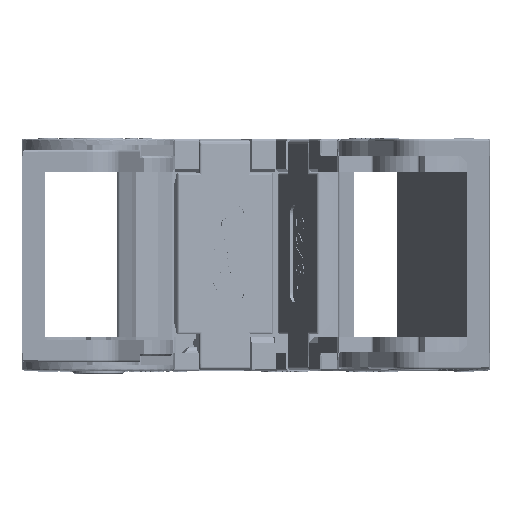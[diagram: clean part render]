
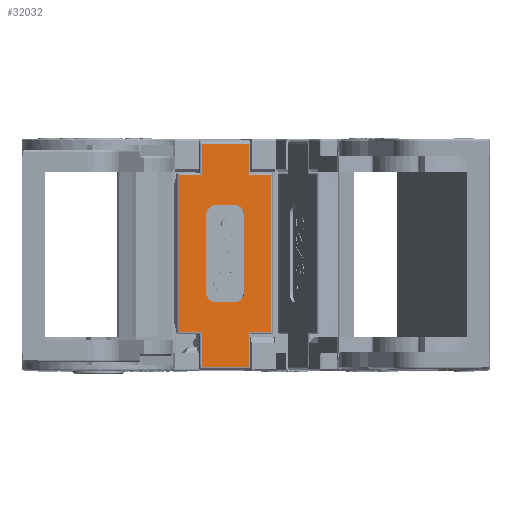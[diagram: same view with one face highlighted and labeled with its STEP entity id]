
A CAD part, left-side view. The second image highlights one B-rep face of the part: STEP entity #32032.
In plain terms, the highlighted planar face has unit normal (-0.978, -0.209, 0).
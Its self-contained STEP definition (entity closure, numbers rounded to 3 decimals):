
#5368=FACE_BOUND('',#62157,.T.);
#5369=FACE_BOUND('',#62158,.T.);
#9572=PLANE('',#282745);
#32032=ADVANCED_FACE('',(#5368,#5369),#9572,.T.);
#62157=EDGE_LOOP('',(#155465,#155466,#155467,#155468,#155469,#155470,#155471,
#155472));
#62158=EDGE_LOOP('',(#155473,#155474,#155475,#155476,#155477,#155478,#155479,
#155480,#155481,#155482,#155483,#155484));
#82106=LINE('',#469788,#107261);
#82107=LINE('',#469793,#107262);
#82108=LINE('',#469797,#107263);
#82109=LINE('',#469801,#107264);
#82110=LINE('',#469804,#107265);
#82111=LINE('',#469807,#107266);
#82112=LINE('',#469809,#107267);
#82113=LINE('',#469811,#107268);
#82114=LINE('',#469813,#107269);
#82115=LINE('',#469815,#107270);
#82116=LINE('',#469817,#107271);
#82117=LINE('',#469819,#107272);
#82118=LINE('',#469821,#107273);
#82119=LINE('',#469823,#107274);
#82120=LINE('',#469825,#107275);
#82121=LINE('',#469827,#107276);
#107261=VECTOR('',#319481,1.);
#107262=VECTOR('',#319484,1.);
#107263=VECTOR('',#319487,1.);
#107264=VECTOR('',#319490,1.);
#107265=VECTOR('',#319493,1.);
#107266=VECTOR('',#319494,1.);
#107267=VECTOR('',#319495,1.);
#107268=VECTOR('',#319496,1.);
#107269=VECTOR('',#319497,1.);
#107270=VECTOR('',#319498,1.);
#107271=VECTOR('',#319499,1.);
#107272=VECTOR('',#319500,1.);
#107273=VECTOR('',#319501,1.);
#107274=VECTOR('',#319502,1.);
#107275=VECTOR('',#319503,1.);
#107276=VECTOR('',#319504,1.);
#155465=ORIENTED_EDGE('',*,*,#244972,.F.);
#155466=ORIENTED_EDGE('',*,*,#244973,.F.);
#155467=ORIENTED_EDGE('',*,*,#244974,.F.);
#155468=ORIENTED_EDGE('',*,*,#244975,.F.);
#155469=ORIENTED_EDGE('',*,*,#244976,.F.);
#155470=ORIENTED_EDGE('',*,*,#244977,.F.);
#155471=ORIENTED_EDGE('',*,*,#244978,.F.);
#155472=ORIENTED_EDGE('',*,*,#244979,.F.);
#155473=ORIENTED_EDGE('',*,*,#244980,.T.);
#155474=ORIENTED_EDGE('',*,*,#244981,.T.);
#155475=ORIENTED_EDGE('',*,*,#244982,.F.);
#155476=ORIENTED_EDGE('',*,*,#244983,.T.);
#155477=ORIENTED_EDGE('',*,*,#244984,.T.);
#155478=ORIENTED_EDGE('',*,*,#244985,.T.);
#155479=ORIENTED_EDGE('',*,*,#244986,.T.);
#155480=ORIENTED_EDGE('',*,*,#244987,.T.);
#155481=ORIENTED_EDGE('',*,*,#244988,.T.);
#155482=ORIENTED_EDGE('',*,*,#244989,.T.);
#155483=ORIENTED_EDGE('',*,*,#244990,.T.);
#155484=ORIENTED_EDGE('',*,*,#244991,.T.);
#213028=VERTEX_POINT('',#469789);
#213029=VERTEX_POINT('',#469790);
#213030=VERTEX_POINT('',#469792);
#213031=VERTEX_POINT('',#469794);
#213032=VERTEX_POINT('',#469796);
#213033=VERTEX_POINT('',#469798);
#213034=VERTEX_POINT('',#469800);
#213035=VERTEX_POINT('',#469802);
#213036=VERTEX_POINT('',#469805);
#213037=VERTEX_POINT('',#469806);
#213038=VERTEX_POINT('',#469808);
#213039=VERTEX_POINT('',#469810);
#213040=VERTEX_POINT('',#469812);
#213041=VERTEX_POINT('',#469814);
#213042=VERTEX_POINT('',#469816);
#213043=VERTEX_POINT('',#469818);
#213044=VERTEX_POINT('',#469820);
#213045=VERTEX_POINT('',#469822);
#213046=VERTEX_POINT('',#469824);
#213047=VERTEX_POINT('',#469826);
#244972=EDGE_CURVE('',#213028,#213029,#82106,.T.);
#244973=EDGE_CURVE('',#213030,#213028,#271101,.T.);
#244974=EDGE_CURVE('',#213031,#213030,#82107,.T.);
#244975=EDGE_CURVE('',#213032,#213031,#271102,.T.);
#244976=EDGE_CURVE('',#213033,#213032,#82108,.T.);
#244977=EDGE_CURVE('',#213034,#213033,#271103,.T.);
#244978=EDGE_CURVE('',#213035,#213034,#82109,.T.);
#244979=EDGE_CURVE('',#213029,#213035,#271104,.T.);
#244980=EDGE_CURVE('',#213036,#213037,#82110,.T.);
#244981=EDGE_CURVE('',#213037,#213038,#82111,.T.);
#244982=EDGE_CURVE('',#213039,#213038,#82112,.T.);
#244983=EDGE_CURVE('',#213039,#213040,#82113,.T.);
#244984=EDGE_CURVE('',#213040,#213041,#82114,.T.);
#244985=EDGE_CURVE('',#213041,#213042,#82115,.T.);
#244986=EDGE_CURVE('',#213042,#213043,#82116,.T.);
#244987=EDGE_CURVE('',#213043,#213044,#82117,.T.);
#244988=EDGE_CURVE('',#213044,#213045,#82118,.T.);
#244989=EDGE_CURVE('',#213045,#213046,#82119,.T.);
#244990=EDGE_CURVE('',#213046,#213047,#82120,.T.);
#244991=EDGE_CURVE('',#213047,#213036,#82121,.T.);
#271101=CIRCLE('',#282741,1.611);
#271102=CIRCLE('',#282742,1.511);
#271103=CIRCLE('',#282743,1.511);
#271104=CIRCLE('',#282744,1.511);
#282741=AXIS2_PLACEMENT_3D('',#469791,#319482,#319483);
#282742=AXIS2_PLACEMENT_3D('',#469795,#319485,#319486);
#282743=AXIS2_PLACEMENT_3D('',#469799,#319488,#319489);
#282744=AXIS2_PLACEMENT_3D('',#469803,#319491,#319492);
#282745=AXIS2_PLACEMENT_3D('',#469828,#319505,#319506);
#319481=DIRECTION('',(0.,0.,-1.));
#319482=DIRECTION('',(-0.978,-0.209,0.));
#319483=DIRECTION('',(0.,0.,1.));
#319484=DIRECTION('',(-0.209,0.978,0.));
#319485=DIRECTION('',(-0.978,-0.209,0.));
#319486=DIRECTION('',(0.,0.,1.));
#319487=DIRECTION('',(0.,0.,1.));
#319488=DIRECTION('',(-0.978,-0.209,0.));
#319489=DIRECTION('',(0.,0.,1.));
#319490=DIRECTION('',(0.209,-0.978,0.));
#319491=DIRECTION('',(-0.978,-0.209,0.));
#319492=DIRECTION('',(0.,0.,1.));
#319493=DIRECTION('',(-0.209,0.978,0.));
#319494=DIRECTION('',(0.,0.,1.));
#319495=DIRECTION('',(0.209,-0.978,0.));
#319496=DIRECTION('',(0.,0.,-1.));
#319497=DIRECTION('',(-0.209,0.978,0.));
#319498=DIRECTION('',(0.,0.,-1.));
#319499=DIRECTION('',(0.209,-0.978,0.));
#319500=DIRECTION('',(0.,0.,-1.));
#319501=DIRECTION('',(0.209,-0.978,0.));
#319502=DIRECTION('',(0.,0.,1.));
#319503=DIRECTION('',(0.209,-0.978,0.));
#319504=DIRECTION('',(0.,0.,1.));
#319505=DIRECTION('',(-0.978,-0.209,0.));
#319506=DIRECTION('',(0.,0.,1.));
#469788=CARTESIAN_POINT('',(26.755,-16.706,4.47));
#469789=CARTESIAN_POINT('',(26.755,-16.706,-6.627));
#469790=CARTESIAN_POINT('',(26.755,-16.706,-18.61));
#469791=CARTESIAN_POINT('',(27.092,-18.281,-6.627));
#469792=CARTESIAN_POINT('',(27.092,-18.281,-5.015));
#469793=CARTESIAN_POINT('',(17.429,26.854,-5.015));
#469794=CARTESIAN_POINT('',(27.703,-21.137,-5.015));
#469795=CARTESIAN_POINT('',(27.703,-21.137,-6.526));
#469796=CARTESIAN_POINT('',(28.019,-22.614,-6.526));
#469797=CARTESIAN_POINT('',(28.019,-22.614,4.47));
#469798=CARTESIAN_POINT('',(28.019,-22.614,-18.61));
#469799=CARTESIAN_POINT('',(27.703,-21.137,-18.61));
#469800=CARTESIAN_POINT('',(27.703,-21.137,-20.12));
#469801=CARTESIAN_POINT('',(17.429,26.854,-20.12));
#469802=CARTESIAN_POINT('',(27.071,-18.183,-20.12));
#469803=CARTESIAN_POINT('',(27.071,-18.183,-18.61));
#469804=CARTESIAN_POINT('',(17.429,26.854,-0.393));
#469805=CARTESIAN_POINT('',(28.905,-26.751,-0.393));
#469806=CARTESIAN_POINT('',(28.173,-23.333,-0.393));
#469807=CARTESIAN_POINT('',(28.173,-23.333,4.47));
#469808=CARTESIAN_POINT('',(28.173,-23.333,4.47));
#469809=CARTESIAN_POINT('',(17.429,26.854,4.47));
#469810=CARTESIAN_POINT('',(26.601,-15.987,4.47));
#469811=CARTESIAN_POINT('',(26.601,-15.987,4.47));
#469812=CARTESIAN_POINT('',(26.601,-15.987,-0.393));
#469813=CARTESIAN_POINT('',(17.429,26.854,-0.393));
#469814=CARTESIAN_POINT('',(25.869,-12.568,-0.393));
#469815=CARTESIAN_POINT('',(25.869,-12.568,4.47));
#469816=CARTESIAN_POINT('',(25.869,-12.568,-24.742));
#469817=CARTESIAN_POINT('',(17.429,26.854,-24.742));
#469818=CARTESIAN_POINT('',(26.601,-15.987,-24.742));
#469819=CARTESIAN_POINT('',(26.601,-15.987,4.47));
#469820=CARTESIAN_POINT('',(26.601,-15.987,-30.116));
#469821=CARTESIAN_POINT('',(17.429,26.854,-30.116));
#469822=CARTESIAN_POINT('',(28.173,-23.333,-30.116));
#469823=CARTESIAN_POINT('',(28.173,-23.333,4.47));
#469824=CARTESIAN_POINT('',(28.173,-23.333,-24.742));
#469825=CARTESIAN_POINT('',(17.429,26.854,-24.742));
#469826=CARTESIAN_POINT('',(28.905,-26.751,-24.742));
#469827=CARTESIAN_POINT('',(28.905,-26.751,4.47));
#469828=CARTESIAN_POINT('',(17.429,26.854,4.47));
